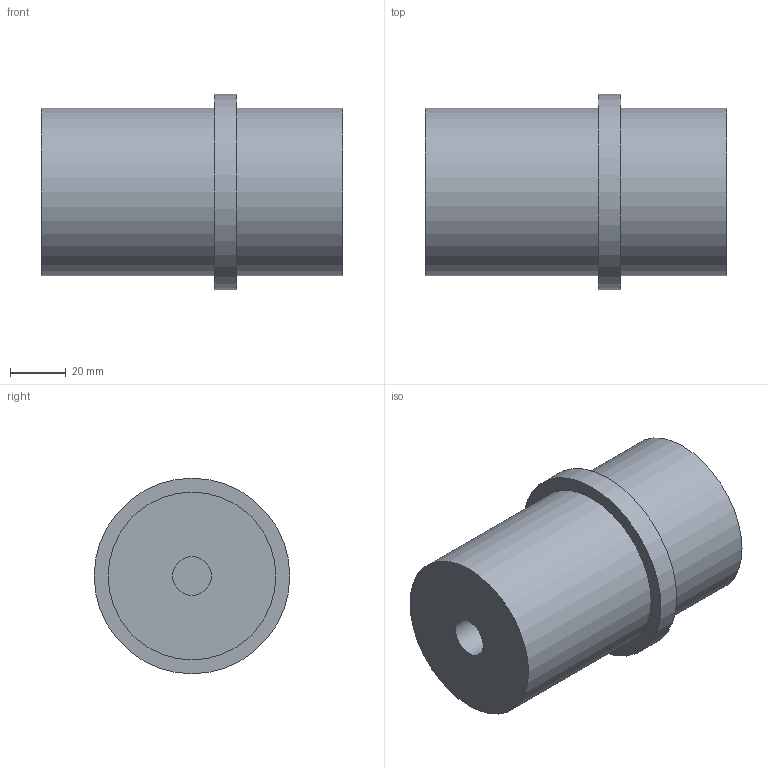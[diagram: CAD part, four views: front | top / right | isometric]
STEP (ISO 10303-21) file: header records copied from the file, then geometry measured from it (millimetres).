
FILE_DESCRIPTION(('Open CASCADE Model'),'2;1');
FILE_NAME('Open CASCADE Shape Model','2026-09-19T12:55:25',('Author'),( 'Open CASCADE'),'Open CASCADE STEP processor 7.9','Open CASCADE 7.9' ,'Unknown');
FILE_SCHEMA(('AUTOMOTIVE_DESIGN { 1 0 10303 214 1 1 1 1 }'));
Length unit declared in the file: millimetre
Products named in the file (1): Open CASCADE STEP translator 7.9 467
Bounding box: 108 x 70 x 70 mm (x, y, z)
Volume: 305988 mm3; surface area: 30460.9 mm2
Topology: 1 solids, 1 shells, 11 faces, 15 edges, 10 vertices
Faces by surface type: plane 6, cylinder 5
Full cylindrical faces by diameter (mm): 14 x2, 60 x2, 70 x1
Entity records: 444 total; most frequent: DIRECTION 79, CARTESIAN_POINT 67, ORIENTED_EDGE 30, PCURVE 30, DEFINITIONAL_REPRESENTATION 30, LINE 25, VECTOR 25, AXIS2_PLACEMENT_3D 22
